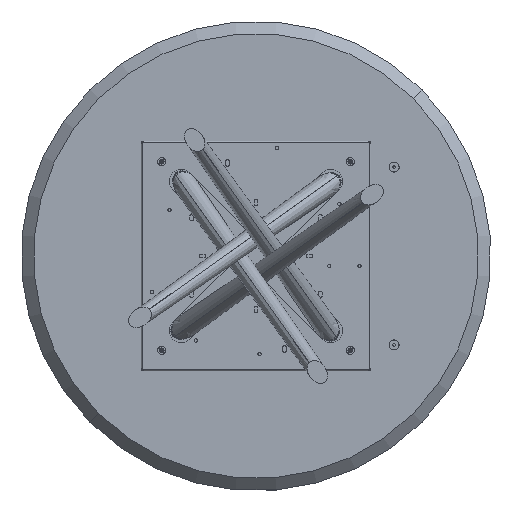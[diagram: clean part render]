
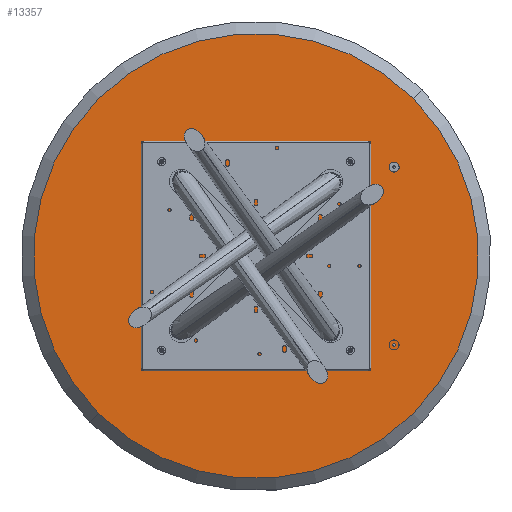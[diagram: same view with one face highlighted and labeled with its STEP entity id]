
A CAD part, front view. The second image highlights one B-rep face of the part: STEP entity #13357.
In plain terms, the highlighted planar face has unit normal (0, -1, 0).
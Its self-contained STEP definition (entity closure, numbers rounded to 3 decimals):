
#120 = EDGE_CURVE ( 'NONE', #1138, #14527, #8214, .T. ) ;
#124 = ORIENTED_EDGE ( 'NONE', *, *, #2378, .F. ) ;
#201 = VERTEX_POINT ( 'NONE', #11767 ) ;
#344 = CARTESIAN_POINT ( 'NONE',  ( 397.5, 0., 0. ) ) ;
#481 = FACE_OUTER_BOUND ( 'NONE', #1713, .T. ) ;
#1045 = CARTESIAN_POINT ( 'NONE',  ( 0., 0., 0. ) ) ;
#1138 = VERTEX_POINT ( 'NONE', #10654 ) ;
#1267 = DIRECTION ( 'NONE',  ( 0., -1., 0. ) ) ;
#1350 = CARTESIAN_POINT ( 'NONE',  ( -397.5, 0., 0. ) ) ;
#1616 = VERTEX_POINT ( 'NONE', #7569 ) ;
#1713 = EDGE_LOOP ( 'NONE', ( #14714, #14510 ) ) ;
#1968 = DIRECTION ( 'NONE',  ( 0., 0., -1. ) ) ;
#2081 = CARTESIAN_POINT ( 'NONE',  ( 0., 0., -400.9 ) ) ;
#2378 = EDGE_CURVE ( 'NONE', #1616, #3057, #16313, .T. ) ;
#2583 = CARTESIAN_POINT ( 'NONE',  ( 397.5, 0., -3.4 ) ) ;
#2826 = AXIS2_PLACEMENT_3D ( 'NONE', #9066, #18096, #19185 ) ;
#3057 = VERTEX_POINT ( 'NONE', #15618 ) ;
#3324 = CIRCLE ( 'NONE', #13998, 3.4 ) ;
#3504 = FACE_BOUND ( 'NONE', #11594, .T. ) ;
#3510 = CIRCLE ( 'NONE', #14488, 3.4 ) ;
#3751 = DIRECTION ( 'NONE',  ( 0., -1., 0. ) ) ;
#3816 = AXIS2_PLACEMENT_3D ( 'NONE', #16575, #12061, #9013 ) ;
#3870 = CIRCLE ( 'NONE', #6700, 3.4 ) ;
#4439 = CARTESIAN_POINT ( 'NONE',  ( 397.5, 0., 3.4 ) ) ;
#4783 = EDGE_CURVE ( 'NONE', #18185, #19096, #7228, .T. ) ;
#5795 = EDGE_CURVE ( 'NONE', #3057, #1616, #12270, .T. ) ;
#6044 = VERTEX_POINT ( 'NONE', #4439 ) ;
#6385 = ORIENTED_EDGE ( 'NONE', *, *, #18912, .F. ) ;
#6700 = AXIS2_PLACEMENT_3D ( 'NONE', #11370, #12640, #17448 ) ;
#6716 = DIRECTION ( 'NONE',  ( 0., -1., 0. ) ) ;
#6723 = CIRCLE ( 'NONE', #8910, 3.4 ) ;
#6737 = ORIENTED_EDGE ( 'NONE', *, *, #8590, .F. ) ;
#7131 = DIRECTION ( 'NONE',  ( 0., -1., 0. ) ) ;
#7228 = CIRCLE ( 'NONE', #15681, 663. ) ;
#7569 = CARTESIAN_POINT ( 'NONE',  ( 0., 0., 400.9 ) ) ;
#7920 = DIRECTION ( 'NONE',  ( 0., -1., 0. ) ) ;
#8214 = CIRCLE ( 'NONE', #3816, 3.4 ) ;
#8251 = ORIENTED_EDGE ( 'NONE', *, *, #9174, .F. ) ;
#8411 = DIRECTION ( 'NONE',  ( 0., 0., -1. ) ) ;
#8590 = EDGE_CURVE ( 'NONE', #201, #14054, #3510, .T. ) ;
#8910 = AXIS2_PLACEMENT_3D ( 'NONE', #1350, #15009, #17753 ) ;
#8923 = DIRECTION ( 'NONE',  ( 0., 0., -1. ) ) ;
#9013 = DIRECTION ( 'NONE',  ( 0., 0., -1. ) ) ;
#9020 = CARTESIAN_POINT ( 'NONE',  ( -397.5, 0., -3.4 ) ) ;
#9066 = CARTESIAN_POINT ( 'NONE',  ( 0., 0., 397.5 ) ) ;
#9174 = EDGE_CURVE ( 'NONE', #14880, #6044, #19061, .T. ) ;
#9312 = ORIENTED_EDGE ( 'NONE', *, *, #120, .F. ) ;
#10195 = AXIS2_PLACEMENT_3D ( 'NONE', #15774, #15682, #17538 ) ;
#10386 = ORIENTED_EDGE ( 'NONE', *, *, #11761, .F. ) ;
#10500 = CIRCLE ( 'NONE', #10195, 663. ) ;
#10654 = CARTESIAN_POINT ( 'NONE',  ( -397.5, 0., 3.4 ) ) ;
#10989 = FACE_BOUND ( 'NONE', #17376, .T. ) ;
#11370 = CARTESIAN_POINT ( 'NONE',  ( 0., 0., -397.5 ) ) ;
#11594 = EDGE_LOOP ( 'NONE', ( #8251, #6385 ) ) ;
#11761 = EDGE_CURVE ( 'NONE', #14527, #1138, #6723, .T. ) ;
#11767 = CARTESIAN_POINT ( 'NONE',  ( 0., 0., -394.1 ) ) ;
#11905 = ORIENTED_EDGE ( 'NONE', *, *, #5795, .F. ) ;
#12061 = DIRECTION ( 'NONE',  ( 0., -1., 0. ) ) ;
#12069 = EDGE_CURVE ( 'NONE', #19096, #18185, #10500, .T. ) ;
#12072 = CARTESIAN_POINT ( 'NONE',  ( 0., 0., -397.5 ) ) ;
#12270 = CIRCLE ( 'NONE', #16964, 3.4 ) ;
#12425 = CARTESIAN_POINT ( 'NONE',  ( 397.5, 0., 0. ) ) ;
#12608 = DIRECTION ( 'NONE',  ( 0., 0., -1. ) ) ;
#12640 = DIRECTION ( 'NONE',  ( 0., -1., 0. ) ) ;
#12672 = DIRECTION ( 'NONE',  ( 0., -1., 0. ) ) ;
#12723 = AXIS2_PLACEMENT_3D ( 'NONE', #1045, #7131, #8411 ) ;
#12927 = EDGE_LOOP ( 'NONE', ( #11905, #124 ) ) ;
#12944 = CARTESIAN_POINT ( 'NONE',  ( 0., 0., -663. ) ) ;
#13357 = ADVANCED_FACE ( 'NONE', ( #481, #10989, #16962, #3504, #17246 ), #15963, .T. ) ;
#13998 = AXIS2_PLACEMENT_3D ( 'NONE', #344, #3751, #14367 ) ;
#14054 = VERTEX_POINT ( 'NONE', #2081 ) ;
#14060 = CARTESIAN_POINT ( 'NONE',  ( 0., 0., 0. ) ) ;
#14367 = DIRECTION ( 'NONE',  ( 0., 0., -1. ) ) ;
#14455 = CARTESIAN_POINT ( 'NONE',  ( 0., 0., 663. ) ) ;
#14467 = EDGE_LOOP ( 'NONE', ( #10386, #9312 ) ) ;
#14488 = AXIS2_PLACEMENT_3D ( 'NONE', #12072, #1267, #8923 ) ;
#14510 = ORIENTED_EDGE ( 'NONE', *, *, #4783, .T. ) ;
#14527 = VERTEX_POINT ( 'NONE', #9020 ) ;
#14714 = ORIENTED_EDGE ( 'NONE', *, *, #12069, .T. ) ;
#14880 = VERTEX_POINT ( 'NONE', #2583 ) ;
#15009 = DIRECTION ( 'NONE',  ( 0., -1., 0. ) ) ;
#15500 = ORIENTED_EDGE ( 'NONE', *, *, #16752, .F. ) ;
#15618 = CARTESIAN_POINT ( 'NONE',  ( 0., 0., 394.1 ) ) ;
#15681 = AXIS2_PLACEMENT_3D ( 'NONE', #14060, #12672, #1968 ) ;
#15682 = DIRECTION ( 'NONE',  ( 0., -1., 0. ) ) ;
#15774 = CARTESIAN_POINT ( 'NONE',  ( 0., 0., 0. ) ) ;
#15963 = PLANE ( 'NONE',  #12723 ) ;
#16313 = CIRCLE ( 'NONE', #2826, 3.4 ) ;
#16575 = CARTESIAN_POINT ( 'NONE',  ( -397.5, 0., 0. ) ) ;
#16752 = EDGE_CURVE ( 'NONE', #14054, #201, #3870, .T. ) ;
#16753 = DIRECTION ( 'NONE',  ( 0., 0., -1. ) ) ;
#16962 = FACE_BOUND ( 'NONE', #14467, .T. ) ;
#16964 = AXIS2_PLACEMENT_3D ( 'NONE', #18496, #6716, #12608 ) ;
#17246 = FACE_BOUND ( 'NONE', #12927, .T. ) ;
#17376 = EDGE_LOOP ( 'NONE', ( #15500, #6737 ) ) ;
#17448 = DIRECTION ( 'NONE',  ( 0., 0., -1. ) ) ;
#17538 = DIRECTION ( 'NONE',  ( 0., 0., -1. ) ) ;
#17753 = DIRECTION ( 'NONE',  ( 0., 0., -1. ) ) ;
#18096 = DIRECTION ( 'NONE',  ( 0., -1., 0. ) ) ;
#18185 = VERTEX_POINT ( 'NONE', #12944 ) ;
#18496 = CARTESIAN_POINT ( 'NONE',  ( 0., 0., 397.5 ) ) ;
#18912 = EDGE_CURVE ( 'NONE', #6044, #14880, #3324, .T. ) ;
#19061 = CIRCLE ( 'NONE', #19386, 3.4 ) ;
#19096 = VERTEX_POINT ( 'NONE', #14455 ) ;
#19185 = DIRECTION ( 'NONE',  ( 0., 0., -1. ) ) ;
#19386 = AXIS2_PLACEMENT_3D ( 'NONE', #12425, #7920, #16753 ) ;
